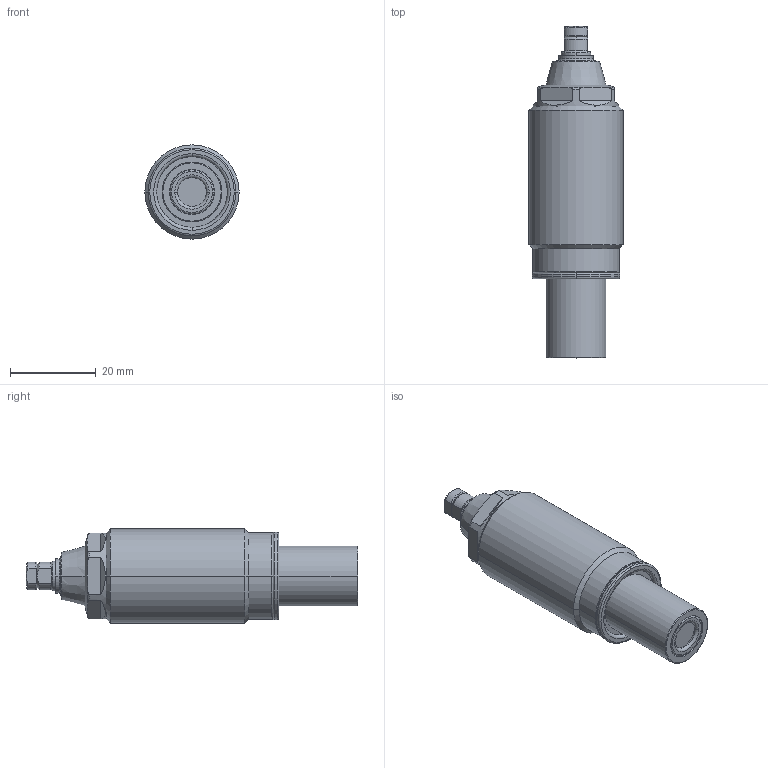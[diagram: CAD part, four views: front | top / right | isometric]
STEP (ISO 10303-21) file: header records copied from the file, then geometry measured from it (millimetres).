
FILE_DESCRIPTION(/* description */ (''),/* implementation_level */ '2;1');
FILE_NAME(/* name */ 'TNL22-Q.stp',/* time_stamp */ '2024-01-16T09:13:07+08:00',/* author */ (''),/* organization */ (''),/* preprocessor_version */ 'ST-DEVELOPER v16.7',/* originating_system */ 'SIEMENS PLM Software NX 12.0',/* authorisation */ '');
FILE_SCHEMA (('AP203_CONFIGURATION_CONTROLLED_3D_DESIGN_OF_MECHANICAL_PARTS_AND_ASSEMBLIES_MIM_LF { 1 0 10303 403 2 1 2}'));
Length unit declared in the file: millimetre
Products named in the file (7): XLD-M4_Oring807; XLD-M4_contactbolt2738; TNL22-Q-4; TNL22-Q-2; TNL22-Q-1; TNL22-Q-3; WNC0353-Q_step
Assembly tree (6 placements, depth 3):
  WNC0353-Q_step
    TNL22-Q-1
    TNL22-Q-2
    TNL22-Q-3
      XLD-M4_contactbolt2738
      XLD-M4_Oring807
    TNL22-Q-4
Bounding box: 22 x 77.5 x 22 mm (x, y, z)
Volume: 19766 mm3; surface area: 6180.4 mm2
Topology: 5 solids, 5 shells, 153 faces, 337 edges, 203 vertices
Faces by surface type: torus 50, cylinder 43, plane 36, cone 22, sphere 2
Entity records: 5349 total; most frequent: CARTESIAN_POINT 1102, DIRECTION 819, ORIENTED_EDGE 674, AXIS2_PLACEMENT_3D 364, EDGE_CURVE 337, CIRCLE 204, VERTEX_POINT 203, EDGE_LOOP 168
